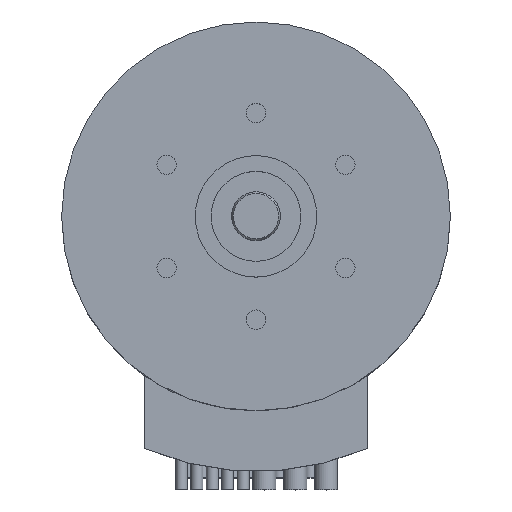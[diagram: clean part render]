
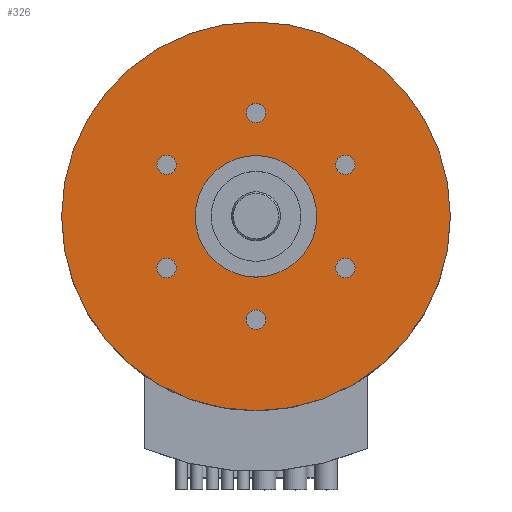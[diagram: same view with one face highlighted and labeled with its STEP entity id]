
A CAD part, top view. The second image highlights one B-rep face of the part: STEP entity #326.
In plain terms, the highlighted planar face has unit normal (0, 0, 1).
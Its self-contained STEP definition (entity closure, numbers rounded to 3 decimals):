
#107=FACE_BOUND('',#562,.T.);
#108=FACE_BOUND('',#563,.T.);
#109=FACE_BOUND('',#564,.T.);
#110=FACE_BOUND('',#565,.T.);
#111=FACE_BOUND('',#566,.T.);
#112=FACE_BOUND('',#567,.T.);
#113=FACE_BOUND('',#568,.T.);
#114=FACE_BOUND('',#569,.T.);
#227=CIRCLE('',#1713,5.);
#228=CIRCLE('',#1715,0.8);
#229=CIRCLE('',#1716,0.8);
#230=CIRCLE('',#1717,0.8);
#231=CIRCLE('',#1718,0.8);
#232=CIRCLE('',#1719,0.8);
#233=CIRCLE('',#1720,0.8);
#234=CIRCLE('',#1721,16.);
#326=ADVANCED_FACE('',(#107,#108,#109,#110,#111,#112,#113,#114),#430,.T.);
#430=PLANE('',#1722);
#562=EDGE_LOOP('',(#843));
#563=EDGE_LOOP('',(#844));
#564=EDGE_LOOP('',(#845));
#565=EDGE_LOOP('',(#846));
#566=EDGE_LOOP('',(#847));
#567=EDGE_LOOP('',(#848));
#568=EDGE_LOOP('',(#849));
#569=EDGE_LOOP('',(#850));
#843=ORIENTED_EDGE('',*,*,#1370,.T.);
#844=ORIENTED_EDGE('',*,*,#1371,.T.);
#845=ORIENTED_EDGE('',*,*,#1372,.T.);
#846=ORIENTED_EDGE('',*,*,#1373,.T.);
#847=ORIENTED_EDGE('',*,*,#1374,.T.);
#848=ORIENTED_EDGE('',*,*,#1375,.T.);
#849=ORIENTED_EDGE('',*,*,#1369,.F.);
#850=ORIENTED_EDGE('',*,*,#1376,.F.);
#1194=VERTEX_POINT('',#2639);
#1195=VERTEX_POINT('',#2642);
#1196=VERTEX_POINT('',#2644);
#1197=VERTEX_POINT('',#2646);
#1198=VERTEX_POINT('',#2648);
#1199=VERTEX_POINT('',#2650);
#1200=VERTEX_POINT('',#2652);
#1201=VERTEX_POINT('',#2654);
#1369=EDGE_CURVE('',#1194,#1194,#227,.T.);
#1370=EDGE_CURVE('',#1195,#1195,#228,.T.);
#1371=EDGE_CURVE('',#1196,#1196,#229,.T.);
#1372=EDGE_CURVE('',#1197,#1197,#230,.T.);
#1373=EDGE_CURVE('',#1198,#1198,#231,.T.);
#1374=EDGE_CURVE('',#1199,#1199,#232,.T.);
#1375=EDGE_CURVE('',#1200,#1200,#233,.T.);
#1376=EDGE_CURVE('',#1201,#1201,#234,.T.);
#1713=AXIS2_PLACEMENT_3D('',#2638,#2077,#2078);
#1715=AXIS2_PLACEMENT_3D('',#2641,#2081,#2082);
#1716=AXIS2_PLACEMENT_3D('',#2643,#2083,#2084);
#1717=AXIS2_PLACEMENT_3D('',#2645,#2085,#2086);
#1718=AXIS2_PLACEMENT_3D('',#2647,#2087,#2088);
#1719=AXIS2_PLACEMENT_3D('',#2649,#2089,#2090);
#1720=AXIS2_PLACEMENT_3D('',#2651,#2091,#2092);
#1721=AXIS2_PLACEMENT_3D('',#2653,#2093,#2094);
#1722=AXIS2_PLACEMENT_3D('',#2655,#2095,#2096);
#2077=DIRECTION('',(0.,0.,1.));
#2078=DIRECTION('',(1.,0.,0.));
#2081=DIRECTION('',(0.,0.,-1.));
#2082=DIRECTION('',(-1.,0.,0.));
#2083=DIRECTION('',(0.,0.,-1.));
#2084=DIRECTION('',(-1.,0.,0.));
#2085=DIRECTION('',(0.,0.,-1.));
#2086=DIRECTION('',(-1.,0.,0.));
#2087=DIRECTION('',(0.,0.,-1.));
#2088=DIRECTION('',(-1.,0.,0.));
#2089=DIRECTION('',(0.,0.,-1.));
#2090=DIRECTION('',(-1.,0.,0.));
#2091=DIRECTION('',(0.,0.,-1.));
#2092=DIRECTION('',(-1.,0.,0.));
#2093=DIRECTION('',(0.,0.,-1.));
#2094=DIRECTION('',(1.,0.,0.));
#2095=DIRECTION('',(0.,0.,1.));
#2096=DIRECTION('',(1.,0.,0.));
#2638=CARTESIAN_POINT('',(0.,0.,0.));
#2639=CARTESIAN_POINT('',(5.,0.,0.));
#2641=CARTESIAN_POINT('',(7.361,4.25,0.));
#2642=CARTESIAN_POINT('',(6.561,4.25,0.));
#2643=CARTESIAN_POINT('',(7.361,-4.25,0.));
#2644=CARTESIAN_POINT('',(6.561,-4.25,0.));
#2645=CARTESIAN_POINT('',(0.,-8.5,0.));
#2646=CARTESIAN_POINT('',(-0.8,-8.5,0.));
#2647=CARTESIAN_POINT('',(-7.361,-4.25,0.));
#2648=CARTESIAN_POINT('',(-8.161,-4.25,0.));
#2649=CARTESIAN_POINT('',(-7.361,4.25,0.));
#2650=CARTESIAN_POINT('',(-8.161,4.25,0.));
#2651=CARTESIAN_POINT('',(0.,8.5,0.));
#2652=CARTESIAN_POINT('',(-0.8,8.5,0.));
#2653=CARTESIAN_POINT('',(0.,0.,0.));
#2654=CARTESIAN_POINT('',(16.,0.,0.));
#2655=CARTESIAN_POINT('',(0.,0.,0.));
